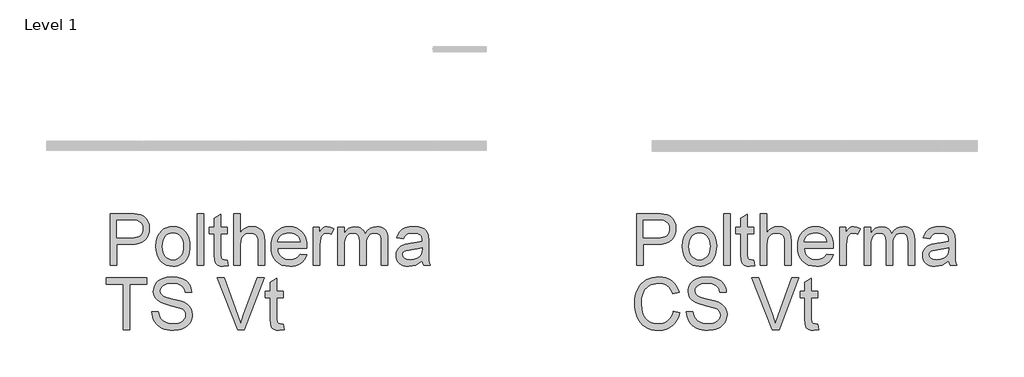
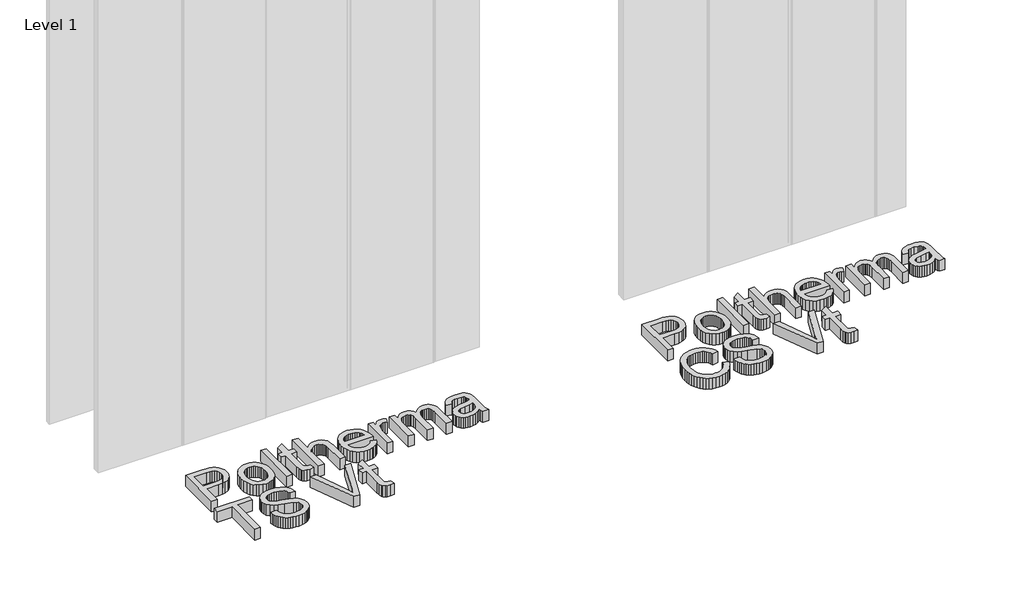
# One storey, part 13 of 27: 2 proxies.
"""IFC4 building model written with IfcOpenShell, lengths in millimetres."""

from ifc_helpers import new_model, si_unit, origin, origin_with_axes, place, context, project, spatial, polyline, outline, extrude, element, save

model = new_model("IFC4")

# Units and contexts
model_context = context("Model", 3, world=origin())
ifc_project = project(units=[si_unit("LENGTHUNIT", "METRE", prefix="MILLI")], contexts=[model_context])

# Site, building, storey
site = spatial("IfcSite", under=ifc_project)
building = spatial("IfcBuilding", under=site)
storey = spatial("IfcBuildingStorey", under=building, Name="Level 1", Elevation=0.0)

# Proxies
placement = place(None, origin())
element("IfcBuildingElementProxy", 1, Name="600mm Arial", ObjectType="600mm Arial", at=placement, inside=storey, context=model_context, shape_type="SweptSolid", body=[
    extrude(outline(polyline([(-5848.6839203, -4357.7938606), (-5848.6839203, -3767.0246299), (-5629.7416126, -3767.0246299), (-5578.7560357, -3768.4308799), (-5541.4723818, -3772.6496299), (-5502.1154107, -3783.1604472), (-5469.7175741, -3800.2698222), (-5443.6298337, -3824.7529953), (-5423.2031511, -3857.3852068), (-5410.0060357, -3895.8767933), (-5405.6069972, -3937.9380914), (-5408.5772496, -3974.2031154), (-5417.4880068, -4007.5654953), (-5432.3392688, -4038.0252308), (-5453.1310357, -4065.5823222), (-5481.6752063, -4088.4248703), (-5519.7836799, -4104.740976), (-5567.4564563, -4114.5306395), (-5624.6935357, -4117.7938606), (-5774.8377664, -4117.7938606), (-5774.8377664, -4357.7938606), (-5848.6839203, -4357.7938606)]), holes=[polyline([(-5774.8377664, -4043.9477068), (-5620.3666126, -4043.9477068), (-5584.8497857, -4042.2529953), (-5554.8858434, -4037.1688606), (-5530.4747857, -4028.6953029), (-5511.6166126, -4016.8323222), (-5497.5450982, -4001.8954231), (-5487.4940164, -3984.2001106), (-5481.4633674, -3963.7463847), (-5479.4531511, -3940.5342453), (-5484.1947376, -3907.3611683), (-5498.4194972, -3879.3803991), (-5520.360603, -3858.3227068), (-5548.251228, -3845.9188606), (-5576.7368049, -3842.1328029), (-5622.0973818, -3840.8707837), (-5774.8377664, -3840.8707837), (-5774.8377664, -4043.9477068)])]), origin_with_axes(), (0.0, 0.0, 1.0), 150.0),
    extrude(outline(polyline([(-5331.7608434, -4140.8707837), (-5327.7674539, -4084.6838847), (-5315.7872857, -4036.2674183), (-5295.8203386, -3995.6213847), (-5267.8666126, -3962.7457837), (-5239.7235837, -3941.7331635), (-5208.6598818, -3926.7241491), (-5174.6755068, -3917.7187404), (-5137.7704587, -3914.7169376), (-5097.0297737, -3918.3722861), (-5060.1923337, -3929.3383318), (-5027.258139, -3947.6150746), (-4998.2271895, -3973.2025145), (-4974.5327785, -4005.2352669), (-4957.6081991, -4042.8479472), (-4947.4534515, -4086.0405553), (-4944.0685357, -4134.8130914), (-4945.5649299, -4174.3413366), (-4950.0541126, -4209.4164568), (-4957.5360837, -4240.038452), (-4968.0108434, -4266.2073222), (-4981.3476823, -4288.810988), (-4997.4158914, -4308.7373703), (-5016.2154708, -4325.9864688), (-5037.7464203, -4340.5582837), (-5061.1703987, -4352.1373102), (-5085.6490645, -4360.4080433), (-5111.1824179, -4365.3704832), (-5137.7704587, -4367.0246299), (-5179.1060958, -4363.3828029), (-5216.2860837, -4352.4573222), (-5249.3104227, -4334.2481876), (-5278.1791126, -4308.7553991), (-5301.6211198, -4276.4116491), (-5318.3654107, -4237.6496299), (-5328.4119852, -4192.4693414), (-5331.7608434, -4140.8707837)]), holes=[polyline([(-5257.9146895, -4140.7265529), (-5255.7782712, -4176.545363), (-5249.3690164, -4207.5594856), (-5238.6869251, -4233.7689207), (-5223.7319972, -4255.1736683), (-5205.5408914, -4271.8007717), (-5185.1502664, -4283.6772741), (-5162.5601222, -4290.8031755), (-5137.7704587, -4293.178476), (-5113.1069972, -4290.7896539), (-5090.6069972, -4283.6231876), (-5070.2704587, -4271.679077), (-5052.0973818, -4254.9573222), (-5037.1424539, -4233.3407356), (-5026.4603626, -4206.7121299), (-5020.0511078, -4175.0715049), (-5017.9146895, -4138.4188606), (-5020.0646294, -4103.7358678), (-5026.5144491, -4073.5330433), (-5037.2641487, -4047.8103871), (-5052.313728, -4026.5678991), (-5070.5544131, -4009.9407957), (-5090.8774299, -3998.0642933), (-5113.2827785, -3990.9383919), (-5137.7704587, -3988.5630914), (-5162.5601222, -3990.9293775), (-5185.1502664, -3998.0282356), (-5205.5408914, -4009.8596659), (-5223.7319972, -4026.4236683), (-5238.6869251, -4047.765315), (-5249.3690164, -4073.9296779), (-5255.7782712, -4104.9167573), (-5257.9146895, -4140.7265529)])]), origin_with_axes(), (0.0, 0.0, 1.0), 150.0),
    extrude(outline(polyline([(-4860.9916126, -4357.7938606), (-4860.9916126, -3767.0246299), (-4787.1454587, -3767.0246299), (-4787.1454587, -4357.7938606), (-4860.9916126, -4357.7938606)])), origin_with_axes(), (0.0, 0.0, 1.0), 150.0),
    extrude(outline(polyline([(-4519.4531511, -4296.2073222), (-4510.2223818, -4359.9573222), (-4565.4627664, -4367.0246299), (-4600.907478, -4363.959726), (-4627.3377664, -4354.7650145), (-4646.0156511, -4340.5943414), (-4658.2031511, -4322.6015529), (-4664.9098818, -4291.7001106), (-4667.1454587, -4238.803476), (-4667.1454587, -3997.7938606), (-4722.5300741, -3997.7938606), (-4722.5300741, -3923.9477068), (-4667.1454587, -3923.9477068), (-4667.1454587, -3818.5150145), (-4593.2993049, -3775.1015529), (-4593.2993049, -3923.9477068), (-4519.4531511, -3923.9477068), (-4519.4531511, -3997.7938606), (-4593.2993049, -3997.7938606), (-4593.2993049, -4236.6400145), (-4589.4050741, -4274.7169376), (-4576.7848818, -4288.2025145), (-4566.1298337, -4291.9344856), (-4551.6166126, -4293.178476), (-4519.4531511, -4296.2073222)])), origin_with_axes(), (0.0, 0.0, 1.0), 150.0),
    extrude(outline(polyline([(-4445.6069972, -4357.7938606), (-4445.6069972, -3767.0246299), (-4371.7608434, -3767.0246299), (-4371.7608434, -3984.2361683), (-4344.6364443, -3953.8215049), (-4314.1767087, -3932.0967453), (-4280.3816366, -3919.0618895), (-4243.251228, -3914.7169376), (-4198.6478626, -3919.4585241), (-4160.3185357, -3933.6832837), (-4130.1382472, -3956.2734279), (-4109.9819972, -3986.1111683), (-4098.6238241, -4027.1087645), (-4094.8377664, -4083.178476), (-4094.8377664, -4357.7938606), (-4168.6839203, -4357.7938606), (-4168.6839203, -4090.8227068), (-4170.1532712, -4065.8888126), (-4174.5613241, -4044.5967453), (-4181.9080789, -4026.9465049), (-4192.1935357, -4012.9380914), (-4205.1743049, -4002.2740289), (-4220.6069972, -3994.6568414), (-4238.4916126, -3990.0865289), (-4258.8281511, -3988.5630914), (-4290.0360837, -3992.6736683), (-4319.3329587, -4005.0053991), (-4343.5997857, -4024.3683799), (-4359.7175741, -4049.5727068), (-4368.7500261, -4083.0703029), (-4371.7608434, -4127.3130914), (-4371.7608434, -4357.7938606), (-4445.6069972, -4357.7938606)])), origin_with_axes(), (0.0, 0.0, 1.0), 150.0),
    extrude(outline(polyline([(-3689.5493049, -4228.5630914), (-3617.1454587, -4237.7938606), (-3628.2467208, -4266.7932597), (-3643.2331991, -4292.3491491), (-3662.1048938, -4314.4615289), (-3684.8618049, -4333.1303991), (-3711.2695573, -4347.9591251), (-3741.0937761, -4358.5510722), (-3774.3344612, -4364.9062404), (-3810.9916126, -4367.0246299), (-3856.8119251, -4363.3692813), (-3897.6382472, -4352.4032356), (-3933.4705789, -4334.1264928), (-3964.3089203, -4308.5390529), (-3989.1075982, -4276.3530553), (-4006.8209395, -4238.2806395), (-4017.4489443, -4194.3218053), (-4020.9916126, -4144.4765529), (-4017.4128866, -4092.9410962), (-4006.6767087, -4047.5174183), (-3988.7830789, -4008.2055193), (-3963.7319972, -3975.0053991), (-3932.9747857, -3948.6291972), (-3897.9627664, -3929.7890529), (-3858.6959395, -3918.4849664), (-3815.1743049, -3914.7169376), (-3773.0544131, -3918.475952), (-3734.9639684, -3929.7529953), (-3700.9029708, -3948.5480674), (-3670.8714203, -3974.8611683), (-3646.3566967, -4007.9891731), (-3628.8461799, -4047.2289568), (-3618.3398698, -4092.5805193), (-3614.8377664, -4144.0438606), (-3615.2704587, -4163.9477068), (-3947.1454587, -4163.9477068), (-3942.868115, -4193.4158558), (-3934.3630068, -4219.2241491), (-3921.6301342, -4241.3725866), (-3904.6694972, -4259.8611683), (-3884.4185958, -4274.4374904), (-3861.8149299, -4284.8491491), (-3836.8584996, -4291.0961443), (-3809.5493049, -4293.178476), (-3770.2464203, -4289.3203029), (-3737.1454587, -4277.7457837), (-3710.2464203, -4257.7337645), (-3689.5493049, -4228.5630914)]), holes=[polyline([(-3947.1454587, -4090.1015529), (-3688.6839203, -4090.1015529), (-3698.6719011, -4051.0871299), (-3707.2626462, -4035.7445818), (-3718.251228, -4023.178476), (-3738.3894491, -4008.0342453), (-3761.3041126, -3997.2169376), (-3786.9952184, -3990.7265529), (-3815.4627664, -3988.5630914), (-3841.4288121, -3990.2893534), (-3865.2404107, -3995.4681395), (-3886.8975621, -4004.0994496), (-3906.4002664, -4016.1832837), (-3922.7659515, -4031.1607477), (-3935.0120453, -4048.4729472), (-3943.1385477, -4068.1198823), (-3947.1454587, -4090.1015529)])]), origin_with_axes(), (0.0, 0.0, 1.0), 150.0),
    extrude(outline(polyline([(-3540.9916126, -4357.7938606), (-3540.9916126, -3923.9477068), (-3476.376228, -3923.9477068), (-3476.376228, -3988.1303991), (-3452.5060357, -3950.9188606), (-3430.5108434, -3928.9957837), (-3408.4435357, -3918.2866491), (-3384.3569972, -3914.7169376), (-3347.5781511, -3920.4140529), (-3310.2223818, -3937.5053991), (-3334.8858434, -4003.7073222), (-3360.8473818, -3992.3491491), (-3386.8089203, -3988.5630914), (-3408.8581991, -3992.2049183), (-3428.563728, -4003.1303991), (-3444.4831991, -4020.5102068), (-3455.1743049, -4043.5150145), (-3464.1526703, -4084.7650145), (-3467.1454587, -4129.7650145), (-3467.1454587, -4357.7938606), (-3540.9916126, -4357.7938606)])), origin_with_axes(), (0.0, 0.0, 1.0), 150.0),
    extrude(outline(polyline([(-3264.0685357, -4357.7938606), (-3264.0685357, -3923.9477068), (-3190.2223818, -3923.9477068), (-3190.2223818, -3995.3419376), (-3168.0108434, -3962.5474664), (-3139.4531511, -3936.8563606), (-3105.5228626, -3920.2517933), (-3067.1935357, -3914.7169376), (-3026.1238241, -3920.3599664), (-3008.6448578, -3927.4137525), (-2993.2031511, -3937.2890529), (-2968.6118049, -3964.3864087), (-2952.5300741, -4000.5342453), (-2925.6130068, -3962.9891731), (-2894.9098818, -3936.1712645), (-2860.4206991, -3920.0805193), (-2822.1454587, -3914.7169376), (-2792.5826583, -3916.9480073), (-2766.6346414, -3923.6412164), (-2744.3014083, -3934.796565), (-2725.5829587, -3950.4140529), (-2710.7857833, -3970.6739688), (-2700.2163722, -3995.756601), (-2693.8747256, -4025.6619496), (-2691.7608434, -4060.3900145), (-2691.7608434, -4357.7938606), (-2765.6069972, -4357.7938606), (-2765.6069972, -4092.1207837), (-2767.3197376, -4055.287851), (-2772.4579587, -4030.4621299), (-2782.0853626, -4013.4609279), (-2797.2656511, -4000.1015529), (-2816.7908914, -3991.4477068), (-2839.4531511, -3988.5630914), (-2860.3801342, -3990.4110481), (-2879.4591607, -3995.9549183), (-2896.6902304, -4005.194702), (-2912.0733434, -4018.1303991), (-2924.7250862, -4035.1406154), (-2933.7620453, -4056.6039568), (-2939.1842208, -4082.5204231), (-2940.9916126, -4112.8900145), (-2940.9916126, -4357.7938606), (-3014.8377664, -4357.7938606), (-3014.8377664, -4083.8996299), (-3019.110603, -4042.1448222), (-3031.9291126, -4012.3611683), (-3041.8404708, -4001.9495097), (-3054.4831991, -3994.5126106), (-3069.8572977, -3990.0504712), (-3087.9627664, -3988.5630914), (-3116.4122857, -3992.5294376), (-3142.626228, -4004.428476), (-3164.2608434, -4023.9717453), (-3178.9723818, -4050.8707837), (-3187.4098818, -4088.1904953), (-3190.2223818, -4138.9957837), (-3190.2223818, -4357.7938606), (-3264.0685357, -4357.7938606)])), origin_with_axes(), (0.0, 0.0, 1.0), 150.0),
    extrude(outline(polyline([(-2304.0685357, -4302.4092453), (-2339.3509876, -4332.6616491), (-2375.6791126, -4352.4573222), (-2413.8822376, -4363.3828029), (-2454.7896895, -4367.0246299), (-2487.6697977, -4364.8341251), (-2516.5024299, -4358.2626106), (-2541.2875862, -4347.3100866), (-2562.0252664, -4331.9765529), (-2578.399966, -4313.2355674), (-2590.0961799, -4292.0606876), (-2597.1139083, -4268.4519135), (-2599.4531511, -4242.4092453), (-2595.9194972, -4211.7962645), (-2585.3185357, -4183.9957837), (-2568.9663722, -4160.1977068), (-2548.1791126, -4141.5919376), (-2523.7500261, -4127.5294376), (-2496.4723818, -4117.3611683), (-2432.5781511, -4106.2553991), (-2357.0733434, -4094.5727068), (-2304.501228, -4080.8707837), (-2304.0685357, -4064.428476), (-2309.1526703, -4031.4717453), (-2315.5078386, -4019.2662164), (-2324.4050741, -4009.9092453), (-2339.7836799, -4000.5703029), (-2358.5156511, -3993.8996299), (-2406.0396895, -3988.5630914), (-2450.0300741, -3992.1147741), (-2480.751228, -4002.7698222), (-2501.7007472, -4022.475351), (-2516.376228, -4053.178476), (-2590.2223818, -4043.9477068), (-2577.4038722, -4003.5630914), (-2558.2752664, -3971.8323222), (-2531.0517087, -3947.5654953), (-2493.9483434, -3929.5727068), (-2448.5697376, -3918.4308799), (-2396.5204587, -3914.7169376), (-2346.5985837, -3917.9981876), (-2307.0252664, -3927.8419376), (-2277.1875261, -3942.6436203), (-2256.4723818, -3960.7986683), (-2242.7344011, -3983.2445818), (-2233.8281511, -4010.9188606), (-2230.2223818, -4075.5342453), (-2230.2223818, -4167.4092453), (-2226.4723818, -4295.7025145), (-2220.9194972, -4327.4152549), (-2211.7608434, -4357.7938606), (-2285.6069972, -4357.7938606), (-2297.4339203, -4332.1207837), (-2304.0685357, -4302.4092453)]), holes=[polyline([(-2304.0685357, -4154.7169376), (-2353.6839203, -4167.0126106), (-2423.2031511, -4177.3611683), (-2486.7368049, -4189.3323222), (-2503.2692568, -4197.5174183), (-2515.5108434, -4208.803476), (-2523.0829587, -4222.3251106), (-2525.6069972, -4237.2169376), (-2520.1081991, -4259.1760722), (-2503.6118049, -4277.1688606), (-2476.4783914, -4289.1760722), (-2439.0685357, -4293.178476), (-2399.4050741, -4288.7614087), (-2364.3569972, -4275.5102068), (-2335.9435357, -4255.9849664), (-2316.1839203, -4232.7457837), (-2307.4219011, -4208.803476), (-2304.501228, -4175.6303991), (-2304.0685357, -4154.7169376)])]), origin_with_axes(), (0.0, 0.0, 1.0), 150.0),
    extrude(outline(polyline([(-5433.2993049, -4877.0246299), (-5359.4531511, -4896.0630914), (-5374.0655309, -4941.9870698), (-5393.5276703, -4982.1147741), (-5417.8395693, -5016.4462044), (-5447.001228, -5044.9813606), (-5480.3545934, -5067.4137525), (-5517.2416126, -5083.4368895), (-5557.6622857, -5093.0507717), (-5601.6166126, -5096.2553991), (-5646.6481631, -5093.8305193), (-5687.2716607, -5086.5558799), (-5723.4871054, -5074.4314808), (-5755.2944972, -5057.4573222), (-5783.1310357, -5035.8858078), (-5807.4339203, -5009.9693414), (-5828.2031511, -4979.7079231), (-5845.438728, -4945.1015529), (-5858.9738842, -4907.6466251), (-5868.641853, -4868.8395337), (-5874.4426342, -4828.6802789), (-5876.376228, -4787.1688606), (-5874.1902304, -4742.6285962), (-5867.6322376, -4701.0270337), (-5856.7022496, -4662.3641731), (-5841.4002664, -4626.6400145), (-5822.0688362, -4594.4450025), (-5799.0505068, -4566.3695818), (-5772.3452785, -4542.4137525), (-5741.9531511, -4522.5775145), (-5708.9062761, -4507.0231275), (-5674.2368049, -4495.912851), (-5637.9447376, -4489.2466852), (-5600.0300741, -4487.0246299), (-5557.7929948, -4489.9002308), (-5519.0625261, -4498.5270337), (-5483.8386679, -4512.9050385), (-5452.1214203, -4533.0342453), (-5424.4336198, -4558.3828029), (-5401.298103, -4588.4188606), (-5382.7148698, -4623.1424183), (-5368.6839203, -4662.553476), (-5442.5300741, -4680.1496299), (-5454.1586799, -4651.1096659), (-5468.1310357, -4626.2974664), (-5484.4471414, -4605.7130313), (-5503.1069972, -4589.3563606), (-5524.2187761, -4576.8939207), (-5547.8906511, -4567.9921779), (-5574.1226222, -4562.6511323), (-5602.9146895, -4560.8707837), (-5636.0426943, -4562.8449424), (-5666.3401703, -4568.7674183), (-5693.8071174, -4578.6382116), (-5718.4435357, -4592.4573222), (-5739.9384275, -4609.6027549), (-5757.9807953, -4629.4525145), (-5772.570639, -4652.006601), (-5783.7079587, -4677.2650145), (-5797.8245453, -4731.3154953), (-5802.5300741, -4787.0246299), (-5796.9591607, -4855.2457837), (-5789.9955188, -4885.8948222), (-5780.2464203, -4914.2361683), (-5767.5541126, -4939.7064207), (-5751.7608434, -4961.7421779), (-5732.8666126, -4980.34344), (-5710.8714203, -4995.5102068), (-5686.8434756, -5007.2785361), (-5661.8509876, -5015.6844856), (-5635.8939563, -5020.7280553), (-5608.9723818, -5022.4092453), (-5576.867514, -5020.1195818), (-5547.3317568, -5013.2505914), (-5520.3651102, -5001.8022741), (-5495.9675741, -4985.7746299), (-5474.7160717, -4965.2397741), (-5457.1875261, -4940.2698222), (-5443.3819371, -4910.8647741), (-5433.2993049, -4877.0246299)])), origin_with_axes(), (0.0, 0.0, 1.0), 150.0),
    extrude(outline(polyline([(-5285.6069972, -4883.9477068), (-5211.7608434, -4883.9477068), (-5203.2872857, -4924.9272741), (-5187.9627664, -4957.865976), (-5164.0565164, -4984.0078029), (-5129.8377664, -5004.5967453), (-5088.0108434, -5017.9561203), (-5041.2800741, -5022.4092453), (-5000.1382472, -5019.037851), (-4964.1166126, -5008.9236683), (-4934.9279107, -4992.9140529), (-4914.2848818, -4971.8563606), (-4902.0072376, -4947.6796779), (-4897.9146895, -4922.3130914), (-4900.9795934, -4897.5955433), (-4910.1743049, -4876.2313606), (-4928.8521895, -4858.0041972), (-4960.3666126, -4842.6977068), (-5067.8906511, -4814.5005914), (-5138.4735837, -4795.8407356), (-5183.6358434, -4778.0823222), (-5220.3966607, -4753.2385722), (-5246.4483434, -4723.1303991), (-5261.9711799, -4688.4068414), (-5267.1454587, -4649.7169376), (-5265.5453987, -4627.7262525), (-5260.7452184, -4606.4657356), (-5252.7449179, -4585.9353871), (-5241.5444972, -4566.1352068), (-5227.2701583, -4547.8719856), (-5210.048103, -4531.9525145), (-5189.8783313, -4518.3767933), (-5166.7608434, -4507.1448222), (-5114.8017087, -4492.0546779), (-5057.2896895, -4487.0246299), (-4994.9819972, -4492.2890529), (-4940.4627664, -4508.0823222), (-4916.610603, -4519.8461443), (-4895.6791126, -4534.0799183), (-4877.6682953, -4550.7836443), (-4862.5781511, -4569.9573222), (-4850.5258674, -4591.0420578), (-4841.6286318, -4613.4789568), (-4835.8864443, -4637.2680193), (-4833.2993049, -4662.4092453), (-4907.1454587, -4662.4092453), (-4912.0853626, -4638.8455433), (-4920.7031511, -4618.3467453), (-4932.9988241, -4600.912851), (-4948.9723818, -4586.5438606), (-4968.9213001, -4575.3118895), (-4993.1430549, -4567.2890529), (-5021.6376462, -4562.475351), (-5054.4050741, -4560.8707837), (-5088.2181751, -4562.4573222), (-5117.1094011, -4567.2169376), (-5141.078752, -4575.1496299), (-5160.126228, -4586.2553991), (-5174.6394491, -4599.6057597), (-5185.0060357, -4614.272226), (-5191.2259876, -4630.2547981), (-5193.2993049, -4647.553476), (-5187.4219011, -4675.9308799), (-5169.7896895, -4698.7553991), (-5153.5997857, -4708.9056395), (-5128.1069972, -4719.1640529), (-5049.2127664, -4740.0053991), (-4967.7944972, -4759.8010722), (-4918.5396895, -4777.0727068), (-4876.4423337, -4803.8635722), (-4860.1667929, -4819.6117693), (-4847.0733434, -4836.928476), (-4837.00874, -4855.7235481), (-4829.8197376, -4875.9068414), (-4824.0685357, -4920.4380914), (-4825.7226823, -4943.5375505), (-4830.6851222, -4965.9609279), (-4838.9558554, -4987.7082236), (-4850.5348818, -5008.7794376), (-4865.219377, -5028.3587645), (-4882.8065164, -5045.6303991), (-4903.2963001, -5060.5943414), (-4926.688728, -5073.2505914), (-4952.3032112, -5083.3151948), (-4979.4591607, -5090.5041972), (-5038.3954587, -5096.2553991), (-5076.1703987, -5094.7049183), (-5110.7452184, -5090.053476), (-5142.1199179, -5082.3010722), (-5170.2944972, -5071.4477068), (-5195.4402304, -5057.475351), (-5217.7283914, -5040.365976), (-5237.1589804, -5020.1195818), (-5253.7319972, -4996.7361683), (-5267.0823578, -4970.9729472), (-5276.844978, -4943.5871299), (-5283.0198578, -4914.5787164), (-5285.6069972, -4883.9477068)])), origin_with_axes(), (0.0, 0.0, 1.0), 150.0),
    extrude(outline(polyline([(-4308.0108434, -5087.0246299), (-4543.1069972, -4496.2553991), (-4464.0685357, -4496.2553991), (-4306.7127664, -4921.8803991), (-4274.8377664, -5017.7938606), (-4243.3954587, -4921.8803991), (-4085.6069972, -4496.2553991), (-4006.5685357, -4496.2553991), (-4231.7127664, -5087.0246299), (-4308.0108434, -5087.0246299)])), origin_with_axes(), (0.0, 0.0, 1.0), 150.0),
    extrude(outline(polyline([(-3790.2223818, -5025.4380914), (-3780.9916126, -5089.1880914), (-3836.2319972, -5096.2553991), (-3871.6767087, -5093.1904953), (-3898.1069972, -5083.9957837), (-3916.7848818, -5069.8251106), (-3928.9723818, -5051.8323222), (-3935.6791126, -5020.9308799), (-3937.9146895, -4968.0342453), (-3937.9146895, -4727.0246299), (-3993.2993049, -4727.0246299), (-3993.2993049, -4653.178476), (-3937.9146895, -4653.178476), (-3937.9146895, -4547.7457837), (-3864.0685357, -4504.3323222), (-3864.0685357, -4653.178476), (-3790.2223818, -4653.178476), (-3790.2223818, -4727.0246299), (-3864.0685357, -4727.0246299), (-3864.0685357, -4965.8707837), (-3860.1743049, -5003.9477068), (-3847.5541126, -5017.4332837), (-3836.8990645, -5021.1652549), (-3822.3858434, -5022.4092453), (-3790.2223818, -5025.4380914)])), origin_with_axes(), (0.0, 0.0, 1.0), 150.0),
])
element("IfcBuildingElementProxy", 2, Name="600mm Arial", ObjectType="600mm Arial", at=placement, inside=storey, context=model_context, shape_type="SweptSolid", body=[
    extrude(outline(polyline([(-11838.0389242, -4357.7938606), (-11838.0389242, -3767.0246299), (-11619.0966165, -3767.0246299), (-11568.1110396, -3768.4308799), (-11530.8273858, -3772.6496299), (-11491.4704146, -3783.1604472), (-11459.0725781, -3800.2698222), (-11432.9848377, -3824.7529953), (-11412.558155, -3857.3852068), (-11399.3610396, -3895.8767933), (-11394.9620011, -3937.9380914), (-11397.9322535, -3974.2031154), (-11406.8430108, -4007.5654953), (-11421.6942728, -4038.0252308), (-11442.4860396, -4065.5823222), (-11471.0302103, -4088.4248703), (-11509.1386838, -4104.740976), (-11556.8114603, -4114.5306395), (-11614.0485396, -4117.7938606), (-11764.1927704, -4117.7938606), (-11764.1927704, -4357.7938606), (-11838.0389242, -4357.7938606)]), holes=[polyline([(-11764.1927704, -4043.9477068), (-11609.7216165, -4043.9477068), (-11574.2047896, -4042.2529953), (-11544.2408473, -4037.1688606), (-11519.8297896, -4028.6953029), (-11500.9716165, -4016.8323222), (-11486.9001021, -4001.8954231), (-11476.8490204, -3984.2001106), (-11470.8183713, -3963.7463847), (-11468.808155, -3940.5342453), (-11473.5497415, -3907.3611683), (-11487.7745011, -3879.3803991), (-11509.7156069, -3858.3227068), (-11537.6062319, -3845.9188606), (-11566.0918088, -3842.1328029), (-11611.4523858, -3840.8707837), (-11764.1927704, -3840.8707837), (-11764.1927704, -4043.9477068)])]), origin_with_axes(), (0.0, 0.0, 1.0), 150.0),
    extrude(outline(polyline([(-11321.1158473, -4140.8707837), (-11317.1224579, -4084.6838847), (-11305.1422896, -4036.2674183), (-11285.1753425, -3995.6213847), (-11257.2216165, -3962.7457837), (-11229.0785877, -3941.7331635), (-11198.0148858, -3926.7241491), (-11164.0305108, -3917.7187404), (-11127.1254627, -3914.7169376), (-11086.3847776, -3918.3722861), (-11049.5473377, -3929.3383318), (-11016.613143, -3947.6150746), (-10987.5821934, -3973.2025145), (-10963.8877824, -4005.2352669), (-10946.9632031, -4042.8479472), (-10936.8084555, -4086.0405553), (-10933.4235396, -4134.8130914), (-10934.9199338, -4174.3413366), (-10939.4091165, -4209.4164568), (-10946.8910877, -4240.038452), (-10957.3658473, -4266.2073222), (-10970.7026862, -4288.810988), (-10986.7708954, -4308.7373703), (-11005.5704747, -4325.9864688), (-11027.1014242, -4340.5582837), (-11050.5254026, -4352.1373102), (-11075.0040684, -4360.4080433), (-11100.5374218, -4365.3704832), (-11127.1254627, -4367.0246299), (-11168.4610997, -4363.3828029), (-11205.6410877, -4352.4573222), (-11238.6654266, -4334.2481876), (-11267.5341165, -4308.7553991), (-11290.9761237, -4276.4116491), (-11307.7204146, -4237.6496299), (-11317.7669891, -4192.4693414), (-11321.1158473, -4140.8707837)]), holes=[polyline([(-11247.2696934, -4140.7265529), (-11245.1332752, -4176.545363), (-11238.7240204, -4207.5594856), (-11228.041929, -4233.7689207), (-11213.0870011, -4255.1736683), (-11194.8958954, -4271.8007717), (-11174.5052704, -4283.6772741), (-11151.9151261, -4290.8031755), (-11127.1254627, -4293.178476), (-11102.4620011, -4290.7896539), (-11079.9620011, -4283.6231876), (-11059.6254627, -4271.679077), (-11041.4523858, -4254.9573222), (-11026.4974579, -4233.3407356), (-11015.8153665, -4206.7121299), (-11009.4061117, -4175.0715049), (-11007.2696934, -4138.4188606), (-11009.4196333, -4103.7358678), (-11015.8694531, -4073.5330433), (-11026.6191526, -4047.8103871), (-11041.6687319, -4026.5678991), (-11059.909417, -4009.9407957), (-11080.2324338, -3998.0642933), (-11102.6377824, -3990.9383919), (-11127.1254627, -3988.5630914), (-11151.9151261, -3990.9293775), (-11174.5052704, -3998.0282356), (-11194.8958954, -4009.8596659), (-11213.0870011, -4026.4236683), (-11228.041929, -4047.765315), (-11238.7240204, -4073.9296779), (-11245.1332752, -4104.9167573), (-11247.2696934, -4140.7265529)])]), origin_with_axes(), (0.0, 0.0, 1.0), 150.0),
    extrude(outline(polyline([(-10850.3466165, -4357.7938606), (-10850.3466165, -3767.0246299), (-10776.5004627, -3767.0246299), (-10776.5004627, -4357.7938606), (-10850.3466165, -4357.7938606)])), origin_with_axes(), (0.0, 0.0, 1.0), 150.0),
    extrude(outline(polyline([(-10508.808155, -4296.2073222), (-10499.5773858, -4359.9573222), (-10554.8177704, -4367.0246299), (-10590.2624819, -4363.959726), (-10616.6927704, -4354.7650145), (-10635.370655, -4340.5943414), (-10647.558155, -4322.6015529), (-10654.2648858, -4291.7001106), (-10656.5004627, -4238.803476), (-10656.5004627, -3997.7938606), (-10711.8850781, -3997.7938606), (-10711.8850781, -3923.9477068), (-10656.5004627, -3923.9477068), (-10656.5004627, -3818.5150145), (-10582.6543088, -3775.1015529), (-10582.6543088, -3923.9477068), (-10508.808155, -3923.9477068), (-10508.808155, -3997.7938606), (-10582.6543088, -3997.7938606), (-10582.6543088, -4236.6400145), (-10578.7600781, -4274.7169376), (-10566.1398858, -4288.2025145), (-10555.4848377, -4291.9344856), (-10540.9716165, -4293.178476), (-10508.808155, -4296.2073222)])), origin_with_axes(), (0.0, 0.0, 1.0), 150.0),
    extrude(outline(polyline([(-10434.9620011, -4357.7938606), (-10434.9620011, -3767.0246299), (-10361.1158473, -3767.0246299), (-10361.1158473, -3984.2361683), (-10333.9914483, -3953.8215049), (-10303.5317127, -3932.0967453), (-10269.7366406, -3919.0618895), (-10232.6062319, -3914.7169376), (-10188.0028665, -3919.4585241), (-10149.6735396, -3933.6832837), (-10119.4932511, -3956.2734279), (-10099.3370011, -3986.1111683), (-10087.9788281, -4027.1087645), (-10084.1927704, -4083.178476), (-10084.1927704, -4357.7938606), (-10158.0389242, -4357.7938606), (-10158.0389242, -4090.8227068), (-10159.5082752, -4065.8888126), (-10163.9163281, -4044.5967453), (-10171.2630829, -4026.9465049), (-10181.5485396, -4012.9380914), (-10194.5293088, -4002.2740289), (-10209.9620011, -3994.6568414), (-10227.8466165, -3990.0865289), (-10248.183155, -3988.5630914), (-10279.3910877, -3992.6736683), (-10308.6879627, -4005.0053991), (-10332.9547896, -4024.3683799), (-10349.0725781, -4049.5727068), (-10358.10503, -4083.0703029), (-10361.1158473, -4127.3130914), (-10361.1158473, -4357.7938606), (-10434.9620011, -4357.7938606)])), origin_with_axes(), (0.0, 0.0, 1.0), 150.0),
    extrude(outline(polyline([(-9678.9043088, -4228.5630914), (-9606.5004627, -4237.7938606), (-9617.6017247, -4266.7932597), (-9632.5882031, -4292.3491491), (-9651.4598978, -4314.4615289), (-9674.2168088, -4333.1303991), (-9700.6245612, -4347.9591251), (-9730.44878, -4358.5510722), (-9763.6894651, -4364.9062404), (-9800.3466165, -4367.0246299), (-9846.166929, -4363.3692813), (-9886.9932511, -4352.4032356), (-9922.8255829, -4334.1264928), (-9953.6639242, -4308.5390529), (-9978.4626021, -4276.3530553), (-9996.1759434, -4238.2806395), (-10006.8039483, -4194.3218053), (-10010.3466165, -4144.4765529), (-10006.7678906, -4092.9410962), (-9996.0317127, -4047.5174183), (-9978.1380829, -4008.2055193), (-9953.0870011, -3975.0053991), (-9922.3297896, -3948.6291972), (-9887.3177704, -3929.7890529), (-9848.0509434, -3918.4849664), (-9804.5293088, -3914.7169376), (-9762.409417, -3918.475952), (-9724.3189723, -3929.7529953), (-9690.2579747, -3948.5480674), (-9660.2264242, -3974.8611683), (-9635.7117007, -4007.9891731), (-9618.2011838, -4047.2289568), (-9607.6948737, -4092.5805193), (-9604.1927704, -4144.0438606), (-9604.6254627, -4163.9477068), (-9936.5004627, -4163.9477068), (-9932.2231189, -4193.4158558), (-9923.7180108, -4219.2241491), (-9910.9851382, -4241.3725866), (-9894.0245011, -4259.8611683), (-9873.7735997, -4274.4374904), (-9851.1699338, -4284.8491491), (-9826.2135035, -4291.0961443), (-9798.9043088, -4293.178476), (-9759.6014242, -4289.3203029), (-9726.5004627, -4277.7457837), (-9699.6014242, -4257.7337645), (-9678.9043088, -4228.5630914)]), holes=[polyline([(-9936.5004627, -4090.1015529), (-9678.0389242, -4090.1015529), (-9688.026905, -4051.0871299), (-9696.6176502, -4035.7445818), (-9707.6062319, -4023.178476), (-9727.7444531, -4008.0342453), (-9750.6591165, -3997.2169376), (-9776.3502223, -3990.7265529), (-9804.8177704, -3988.5630914), (-9830.783816, -3990.2893534), (-9854.5954146, -3995.4681395), (-9876.252566, -4004.0994496), (-9895.7552704, -4016.1832837), (-9912.1209555, -4031.1607477), (-9924.3670492, -4048.4729472), (-9932.4935516, -4068.1198823), (-9936.5004627, -4090.1015529)])]), origin_with_axes(), (0.0, 0.0, 1.0), 150.0),
    extrude(outline(polyline([(-9530.3466165, -4357.7938606), (-9530.3466165, -3923.9477068), (-9465.7312319, -3923.9477068), (-9465.7312319, -3988.1303991), (-9441.8610396, -3950.9188606), (-9419.8658473, -3928.9957837), (-9397.7985396, -3918.2866491), (-9373.7120011, -3914.7169376), (-9336.933155, -3920.4140529), (-9299.5773858, -3937.5053991), (-9324.2408473, -4003.7073222), (-9350.2023858, -3992.3491491), (-9376.1639242, -3988.5630914), (-9398.2132031, -3992.2049183), (-9417.9187319, -4003.1303991), (-9433.8382031, -4020.5102068), (-9444.5293088, -4043.5150145), (-9453.5076742, -4084.7650145), (-9456.5004627, -4129.7650145), (-9456.5004627, -4357.7938606), (-9530.3466165, -4357.7938606)])), origin_with_axes(), (0.0, 0.0, 1.0), 150.0),
    extrude(outline(polyline([(-9253.4235396, -4357.7938606), (-9253.4235396, -3923.9477068), (-9179.5773858, -3923.9477068), (-9179.5773858, -3995.3419376), (-9157.3658473, -3962.5474664), (-9128.808155, -3936.8563606), (-9094.8778665, -3920.2517933), (-9056.5485396, -3914.7169376), (-9015.4788281, -3920.3599664), (-8997.9998617, -3927.4137525), (-8982.558155, -3937.2890529), (-8957.9668088, -3964.3864087), (-8941.8850781, -4000.5342453), (-8914.9680108, -3962.9891731), (-8884.2648858, -3936.1712645), (-8849.7757031, -3920.0805193), (-8811.5004627, -3914.7169376), (-8781.9376622, -3916.9480073), (-8755.9896454, -3923.6412164), (-8733.6564122, -3934.796565), (-8714.9379627, -3950.4140529), (-8700.1407872, -3970.6739688), (-8689.5713761, -3995.756601), (-8683.2297295, -4025.6619496), (-8681.1158473, -4060.3900145), (-8681.1158473, -4357.7938606), (-8754.9620011, -4357.7938606), (-8754.9620011, -4092.1207837), (-8756.6747415, -4055.287851), (-8761.8129627, -4030.4621299), (-8771.4403665, -4013.4609279), (-8786.620655, -4000.1015529), (-8806.1458954, -3991.4477068), (-8828.808155, -3988.5630914), (-8849.7351382, -3990.4110481), (-8868.8141646, -3995.9549183), (-8886.0452343, -4005.194702), (-8901.4283473, -4018.1303991), (-8914.0800901, -4035.1406154), (-8923.1170492, -4056.6039568), (-8928.5392247, -4082.5204231), (-8930.3466165, -4112.8900145), (-8930.3466165, -4357.7938606), (-9004.1927704, -4357.7938606), (-9004.1927704, -4083.8996299), (-9008.4656069, -4042.1448222), (-9021.2841165, -4012.3611683), (-9031.1954747, -4001.9495097), (-9043.8382031, -3994.5126106), (-9059.2123016, -3990.0504712), (-9077.3177704, -3988.5630914), (-9105.7672896, -3992.5294376), (-9131.9812319, -4004.428476), (-9153.6158473, -4023.9717453), (-9168.3273858, -4050.8707837), (-9176.7648858, -4088.1904953), (-9179.5773858, -4138.9957837), (-9179.5773858, -4357.7938606), (-9253.4235396, -4357.7938606)])), origin_with_axes(), (0.0, 0.0, 1.0), 150.0),
    extrude(outline(polyline([(-8293.4235396, -4302.4092453), (-8328.7059915, -4332.6616491), (-8365.0341165, -4352.4573222), (-8403.2372415, -4363.3828029), (-8444.1446934, -4367.0246299), (-8477.0248016, -4364.8341251), (-8505.8574338, -4358.2626106), (-8530.6425901, -4347.3100866), (-8551.3802704, -4331.9765529), (-8567.7549699, -4313.2355674), (-8579.4511838, -4292.0606876), (-8586.4689122, -4268.4519135), (-8588.808155, -4242.4092453), (-8585.2745011, -4211.7962645), (-8574.6735396, -4183.9957837), (-8558.3213761, -4160.1977068), (-8537.5341165, -4141.5919376), (-8513.10503, -4127.5294376), (-8485.8273858, -4117.3611683), (-8421.933155, -4106.2553991), (-8346.4283473, -4094.5727068), (-8293.8562319, -4080.8707837), (-8293.4235396, -4064.428476), (-8298.5076742, -4031.4717453), (-8304.8628425, -4019.2662164), (-8313.7600781, -4009.9092453), (-8329.1386838, -4000.5703029), (-8347.870655, -3993.8996299), (-8395.3946934, -3988.5630914), (-8439.3850781, -3992.1147741), (-8470.1062319, -4002.7698222), (-8491.0557511, -4022.475351), (-8505.7312319, -4053.178476), (-8579.5773858, -4043.9477068), (-8566.7588761, -4003.5630914), (-8547.6302704, -3971.8323222), (-8520.4067127, -3947.5654953), (-8483.3033473, -3929.5727068), (-8437.9247415, -3918.4308799), (-8385.8754627, -3914.7169376), (-8335.9535877, -3917.9981876), (-8296.3802704, -3927.8419376), (-8266.54253, -3942.6436203), (-8245.8273858, -3960.7986683), (-8232.089405, -3983.2445818), (-8223.183155, -4010.9188606), (-8219.5773858, -4075.5342453), (-8219.5773858, -4167.4092453), (-8215.8273858, -4295.7025145), (-8210.2745011, -4327.4152549), (-8201.1158473, -4357.7938606), (-8274.9620011, -4357.7938606), (-8286.7889242, -4332.1207837), (-8293.4235396, -4302.4092453)]), holes=[polyline([(-8293.4235396, -4154.7169376), (-8343.0389242, -4167.0126106), (-8412.558155, -4177.3611683), (-8476.0918088, -4189.3323222), (-8492.6242608, -4197.5174183), (-8504.8658473, -4208.803476), (-8512.4379627, -4222.3251106), (-8514.9620011, -4237.2169376), (-8509.4632031, -4259.1760722), (-8492.9668088, -4277.1688606), (-8465.8333954, -4289.1760722), (-8428.4235396, -4293.178476), (-8388.7600781, -4288.7614087), (-8353.7120011, -4275.5102068), (-8325.2985396, -4255.9849664), (-8305.5389242, -4232.7457837), (-8296.776905, -4208.803476), (-8293.8562319, -4175.6303991), (-8293.4235396, -4154.7169376)])]), origin_with_axes(), (0.0, 0.0, 1.0), 150.0),
    extrude(outline(polyline([(-11690.3466165, -5087.0246299), (-11690.3466165, -4570.1015529), (-11884.1927704, -4570.1015529), (-11884.1927704, -4496.2553991), (-11422.6543088, -4496.2553991), (-11422.6543088, -4570.1015529), (-11616.5004627, -4570.1015529), (-11616.5004627, -5087.0246299), (-11690.3466165, -5087.0246299)])), origin_with_axes(), (0.0, 0.0, 1.0), 150.0),
    extrude(outline(polyline([(-11367.2696934, -4883.9477068), (-11293.4235396, -4883.9477068), (-11284.9499819, -4924.9272741), (-11269.6254627, -4957.865976), (-11245.7192127, -4984.0078029), (-11211.5004627, -5004.5967453), (-11169.6735396, -5017.9561203), (-11122.9427704, -5022.4092453), (-11081.8009434, -5019.037851), (-11045.7793088, -5008.9236683), (-11016.5906069, -4992.9140529), (-10995.9475781, -4971.8563606), (-10983.6699338, -4947.6796779), (-10979.5773858, -4922.3130914), (-10982.6422896, -4897.5955433), (-10991.8370011, -4876.2313606), (-11010.5148858, -4858.0041972), (-11042.0293088, -4842.6977068), (-11149.5533473, -4814.5005914), (-11220.13628, -4795.8407356), (-11265.2985396, -4778.0823222), (-11302.0593569, -4753.2385722), (-11328.1110396, -4723.1303991), (-11343.6338761, -4688.4068414), (-11348.808155, -4649.7169376), (-11347.2080949, -4627.7262525), (-11342.4079146, -4606.4657356), (-11334.4076141, -4585.9353871), (-11323.2071934, -4566.1352068), (-11308.9328545, -4547.8719856), (-11291.7107992, -4531.9525145), (-11271.5410276, -4518.3767933), (-11248.4235396, -4507.1448222), (-11196.464405, -4492.0546779), (-11138.9523858, -4487.0246299), (-11076.6446934, -4492.2890529), (-11022.1254627, -4508.0823222), (-10998.2732992, -4519.8461443), (-10977.3418088, -4534.0799183), (-10959.3309915, -4550.7836443), (-10944.2408473, -4569.9573222), (-10932.1885636, -4591.0420578), (-10923.2913281, -4613.4789568), (-10917.5491406, -4637.2680193), (-10914.9620011, -4662.4092453), (-10988.808155, -4662.4092453), (-10993.7480588, -4638.8455433), (-11002.3658473, -4618.3467453), (-11014.6615204, -4600.912851), (-11030.6350781, -4586.5438606), (-11050.5839963, -4575.3118895), (-11074.8057511, -4567.2890529), (-11103.3003425, -4562.475351), (-11136.0677704, -4560.8707837), (-11169.8808713, -4562.4573222), (-11198.7720973, -4567.2169376), (-11222.7414483, -4575.1496299), (-11241.7889242, -4586.2553991), (-11256.3021454, -4599.6057597), (-11266.6687319, -4614.272226), (-11272.8886838, -4630.2547981), (-11274.9620011, -4647.553476), (-11269.0845973, -4675.9308799), (-11251.4523858, -4698.7553991), (-11235.2624819, -4708.9056395), (-11209.7696934, -4719.1640529), (-11130.8754627, -4740.0053991), (-11049.4571934, -4759.8010722), (-11000.2023858, -4777.0727068), (-10958.10503, -4803.8635722), (-10941.8294891, -4819.6117693), (-10928.7360396, -4836.928476), (-10918.6714362, -4855.7235481), (-10911.4824338, -4875.9068414), (-10905.7312319, -4920.4380914), (-10907.3853785, -4943.5375505), (-10912.3478184, -4965.9609279), (-10920.6185516, -4987.7082236), (-10932.1975781, -5008.7794376), (-10946.8820733, -5028.3587645), (-10964.4692127, -5045.6303991), (-10984.9589963, -5060.5943414), (-11008.3514242, -5073.2505914), (-11033.9659074, -5083.3151948), (-11061.1218569, -5090.5041972), (-11120.058155, -5096.2553991), (-11157.8330949, -5094.7049183), (-11192.4079146, -5090.053476), (-11223.7826141, -5082.3010722), (-11251.9571934, -5071.4477068), (-11277.1029266, -5057.475351), (-11299.3910877, -5040.365976), (-11318.8216766, -5020.1195818), (-11335.3946934, -4996.7361683), (-11348.745054, -4970.9729472), (-11358.5076742, -4943.5871299), (-11364.682554, -4914.5787164), (-11367.2696934, -4883.9477068)])), origin_with_axes(), (0.0, 0.0, 1.0), 150.0),
    extrude(outline(polyline([(-10389.6735396, -5087.0246299), (-10624.7696934, -4496.2553991), (-10545.7312319, -4496.2553991), (-10388.3754627, -4921.8803991), (-10356.5004627, -5017.7938606), (-10325.058155, -4921.8803991), (-10167.2696934, -4496.2553991), (-10088.2312319, -4496.2553991), (-10313.3754627, -5087.0246299), (-10389.6735396, -5087.0246299)])), origin_with_axes(), (0.0, 0.0, 1.0), 150.0),
    extrude(outline(polyline([(-9871.8850781, -5025.4380914), (-9862.6543088, -5089.1880914), (-9917.8946934, -5096.2553991), (-9953.339405, -5093.1904953), (-9979.7696934, -5083.9957837), (-9998.4475781, -5069.8251106), (-10010.6350781, -5051.8323222), (-10017.3418088, -5020.9308799), (-10019.5773858, -4968.0342453), (-10019.5773858, -4727.0246299), (-10074.9620011, -4727.0246299), (-10074.9620011, -4653.178476), (-10019.5773858, -4653.178476), (-10019.5773858, -4547.7457837), (-9945.7312319, -4504.3323222), (-9945.7312319, -4653.178476), (-9871.8850781, -4653.178476), (-9871.8850781, -4727.0246299), (-9945.7312319, -4727.0246299), (-9945.7312319, -4965.8707837), (-9941.8370011, -5003.9477068), (-9929.2168088, -5017.4332837), (-9918.5617608, -5021.1652549), (-9904.0485396, -5022.4092453), (-9871.8850781, -5025.4380914)])), origin_with_axes(), (0.0, 0.0, 1.0), 150.0),
])

save(model, "model.ifc")
